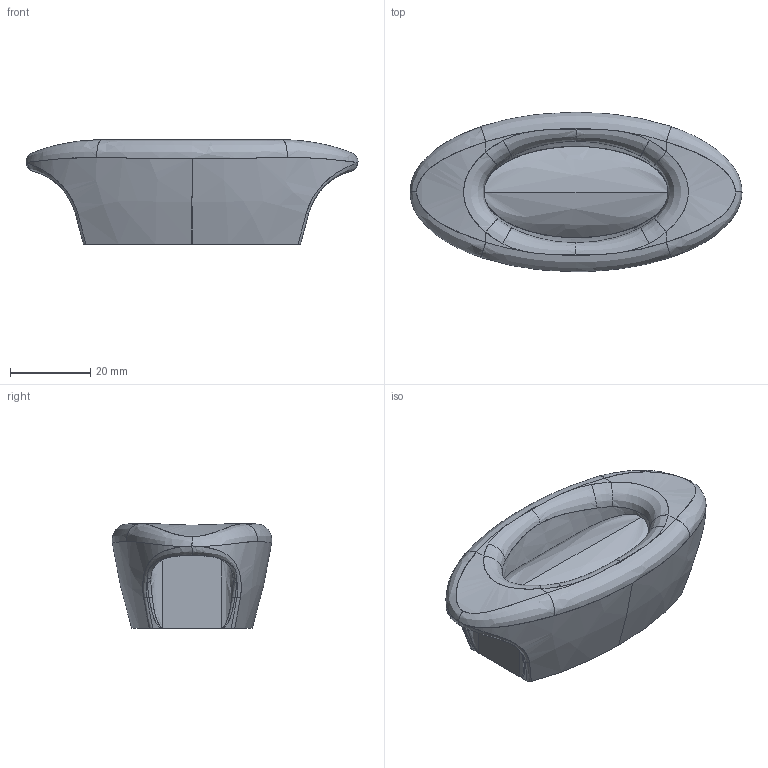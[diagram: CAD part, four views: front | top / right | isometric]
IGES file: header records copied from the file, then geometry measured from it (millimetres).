
Start section: C
Global section: file name: 0769-83.igs; native system: By Siemens PLM Incorporated; preprocessor: XPlus GENERIC/IGES 16.0.42; author: Author; organization: Title; date: 20231129.102442; units: millimetre
Bounding box: 82.67 x 39.71 x 26 mm (x, y, z)
Surface area: 16033 mm2 (no closed solid volume)
Topology: 0 solids, 0 shells, 166 faces, 895 edges, 888 vertices
Faces by surface type: bspline 166
